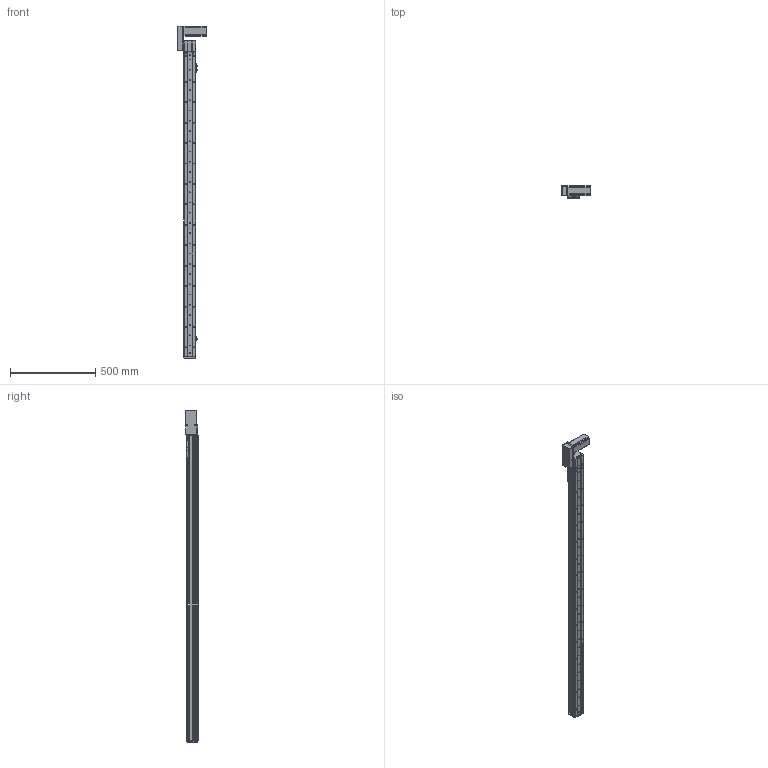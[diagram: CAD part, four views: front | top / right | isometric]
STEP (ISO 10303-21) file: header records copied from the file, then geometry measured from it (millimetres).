
FILE_DESCRIPTION (( 'STEP AP214' ), '1' );
FILE_NAME ('KSD68BS-S1600-MRB-CM.STEP', '2019-10-19T09:41:06', ( '微软用户' ), ( '微软中国' ), 'SwSTEP 2.0', 'SolidWorks 2014', '' );
FILE_SCHEMA (( 'AUTOMOTIVE_DESIGN' ));
Length unit declared in the file: millimetre
Products named in the file (11): 覜茼え68遵圉猾敕; KSD68BS半封闭同步带传动导轨座; U倰嫖萇EEㄜSX672; 台达ECMA－C20604AS伺服电机（400W); KSD68BS 1600俴最菁啣圉猾敕; KSD68BS-S1600-MRB-CM; 悵誘欶奻狟殏; 68宽马达安装板连板上折同步带; 68宽单导轨半封闭同步带主动轮座右; 68单导轨同步带半封闭端板; KSD68BS 1600俴最裔啣圉猾敕
Assembly tree (12 placements, depth 2):
  KSD68BS-S1600-MRB-CM
    KSD68BS 1600俴最菁啣圉猾敕
    台达ECMA－C20604AS伺服电机（400W)
    U倰嫖萇EEㄜSX672  x3
    KSD68BS半封闭同步带传动导轨座
    覜茼え68遵圉猾敕
    KSD68BS 1600俴最裔啣圉猾敕
    68单导轨同步带半封闭端板
    68宽单导轨半封闭同步带主动轮座右
    68宽马达安装板连板上折同步带
    悵誘欶奻狟殏
Bounding box: 167.2 x 70.5 x 1949.5 mm (x, y, z)
Volume: 3128044.6 mm3; surface area: 1160260.6 mm2
Topology: 13 solids, 13 shells, 1576 faces, 4610 edges, 3004 vertices
Faces by surface type: cylinder 828, plane 665, cone 83
Entity records: 61257 total; most frequent: CARTESIAN_POINT 12286, ORIENTED_EDGE 7972, DIRECTION 7722, EDGE_CURVE 3986, AXIS2_PLACEMENT_3D 2784, VERTEX_POINT 2628, VECTOR 2154, LINE 2154
